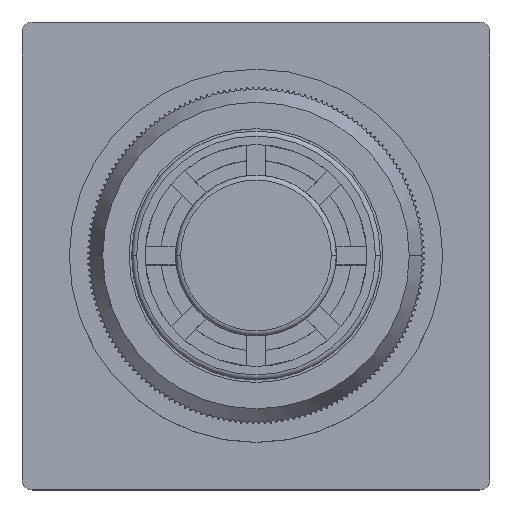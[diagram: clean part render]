
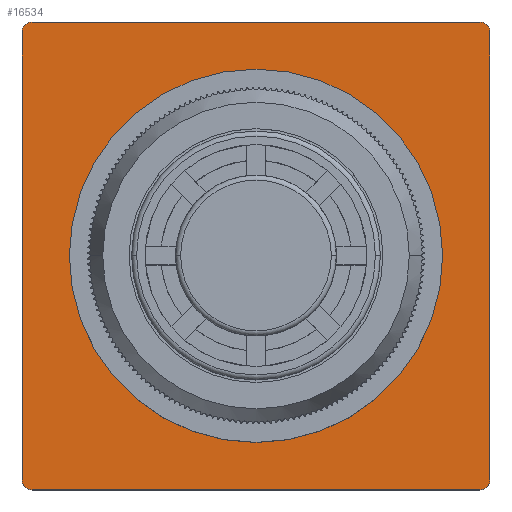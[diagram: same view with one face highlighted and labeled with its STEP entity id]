
A CAD part, top view. The second image highlights one B-rep face of the part: STEP entity #16534.
In plain terms, the highlighted planar face has unit normal (0, 0, 1).
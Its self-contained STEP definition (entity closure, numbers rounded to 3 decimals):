
#7 = EDGE_CURVE ( 'NONE', #871, #877, #8851, .T. ) ;
#299 = EDGE_CURVE ( 'NONE', #31943, #31942, #9727, .T. ) ;
#871 = VERTEX_POINT ( 'NONE', #10700 ) ;
#877 = VERTEX_POINT ( 'NONE', #10706 ) ;
#2150 = EDGE_LOOP ( 'NONE', ( #5715, #5716, #5712, #5717, #5718, #5719, #5721, #5720 ) ) ;
#2151 = EDGE_LOOP ( 'NONE', ( #5724, #5723 ) ) ;
#3966 = EDGE_CURVE ( 'NONE', #31943, #31860, #4800, .T. ) ;
#3967 = EDGE_CURVE ( 'NONE', #31861, #31860, #12071, .T. ) ;
#3968 = EDGE_CURVE ( 'NONE', #31861, #877, #4801, .T. ) ;
#3969 = EDGE_CURVE ( 'NONE', #871, #31859, #4802, .T. ) ;
#3970 = EDGE_CURVE ( 'NONE', #31848, #31859, #12080, .T. ) ;
#3971 = EDGE_CURVE ( 'NONE', #31848, #31942, #4803, .T. ) ;
#4800 = CIRCLE ( 'NONE', #10528, 1. ) ;
#4801 = CIRCLE ( 'NONE', #10529, 1. ) ;
#4802 = CIRCLE ( 'NONE', #10527, 1. ) ;
#4803 = CIRCLE ( 'NONE', #10531, 1. ) ;
#5224 = CIRCLE ( 'NONE', #21818, 18.75 ) ;
#5442 = CIRCLE ( 'NONE', #25228, 18.75 ) ;
#5712 = ORIENTED_EDGE ( 'NONE', *, *, #3967, .F. ) ;
#5715 = ORIENTED_EDGE ( 'NONE', *, *, #299, .F. ) ;
#5716 = ORIENTED_EDGE ( 'NONE', *, *, #3966, .T. ) ;
#5717 = ORIENTED_EDGE ( 'NONE', *, *, #3968, .T. ) ;
#5718 = ORIENTED_EDGE ( 'NONE', *, *, #7, .F. ) ;
#5719 = ORIENTED_EDGE ( 'NONE', *, *, #3969, .T. ) ;
#5720 = ORIENTED_EDGE ( 'NONE', *, *, #3971, .T. ) ;
#5721 = ORIENTED_EDGE ( 'NONE', *, *, #3970, .F. ) ;
#5723 = ORIENTED_EDGE ( 'NONE', *, *, #30146, .F. ) ;
#5724 = ORIENTED_EDGE ( 'NONE', *, *, #21044, .F. ) ;
#6625 = VERTEX_POINT ( 'NONE', #15023 ) ;
#6886 = VERTEX_POINT ( 'NONE', #15284 ) ;
#8851 = LINE ( 'NONE', #8852, #30752 ) ;
#8852 = CARTESIAN_POINT ( 'NONE',  ( 23.5, -23.5, 0. ) ) ;
#8853 = DIRECTION ( 'NONE',  ( 0., -1., 0. ) ) ;
#9727 = LINE ( 'NONE', #9728, #10422 ) ;
#9728 = CARTESIAN_POINT ( 'NONE',  ( -23.5, -23.5, 0. ) ) ;
#9729 = DIRECTION ( 'NONE',  ( 0., 1., 0. ) ) ;
#10422 = VECTOR ( 'NONE', #9729, 1000. ) ;
#10527 = AXIS2_PLACEMENT_3D ( 'NONE', #12076, #12077, #12078 ) ;
#10528 = AXIS2_PLACEMENT_3D ( 'NONE', #12067, #12068, #12069 ) ;
#10529 = AXIS2_PLACEMENT_3D ( 'NONE', #12070, #12074, #12075 ) ;
#10530 = VECTOR ( 'NONE', #12073, 1000. ) ;
#10531 = AXIS2_PLACEMENT_3D ( 'NONE', #12079, #12083, #12084 ) ;
#10532 = VECTOR ( 'NONE', #12082, 1000. ) ;
#10700 = CARTESIAN_POINT ( 'NONE',  ( 23.5, 22.5, 0. ) ) ;
#10706 = CARTESIAN_POINT ( 'NONE',  ( 23.5, -22.5, 0. ) ) ;
#12067 = CARTESIAN_POINT ( 'NONE',  ( -22.5, -22.5, 0. ) ) ;
#12068 = DIRECTION ( 'NONE',  ( 0., 0., 1. ) ) ;
#12069 = DIRECTION ( 'NONE',  ( 1., 0., 0. ) ) ;
#12070 = CARTESIAN_POINT ( 'NONE',  ( 22.5, -22.5, 0. ) ) ;
#12071 = LINE ( 'NONE', #12072, #10530 ) ;
#12072 = CARTESIAN_POINT ( 'NONE',  ( 23.5, -23.5, 0. ) ) ;
#12073 = DIRECTION ( 'NONE',  ( -1., 0., 0. ) ) ;
#12074 = DIRECTION ( 'NONE',  ( 0., 0., 1. ) ) ;
#12075 = DIRECTION ( 'NONE',  ( 1., 0., 0. ) ) ;
#12076 = CARTESIAN_POINT ( 'NONE',  ( 22.5, 22.5, 0. ) ) ;
#12077 = DIRECTION ( 'NONE',  ( 0., 0., 1. ) ) ;
#12078 = DIRECTION ( 'NONE',  ( 1., 0., 0. ) ) ;
#12079 = CARTESIAN_POINT ( 'NONE',  ( -22.5, 22.5, 0. ) ) ;
#12080 = LINE ( 'NONE', #12081, #10532 ) ;
#12081 = CARTESIAN_POINT ( 'NONE',  ( 23.5, 23.5, 0. ) ) ;
#12082 = DIRECTION ( 'NONE',  ( 1., 0., 0. ) ) ;
#12083 = DIRECTION ( 'NONE',  ( 0., 0., 1. ) ) ;
#12084 = DIRECTION ( 'NONE',  ( 1., 0., 0. ) ) ;
#15023 = CARTESIAN_POINT ( 'NONE',  ( -18.75, 0., 0. ) ) ;
#15284 = CARTESIAN_POINT ( 'NONE',  ( 18.75, 0., 0. ) ) ;
#16122 = FACE_OUTER_BOUND ( 'NONE', #2150, .T. ) ;
#16125 = FACE_BOUND ( 'NONE', #2151, .T. ) ;
#16128 = AXIS2_PLACEMENT_3D ( 'NONE', #17260, #17261, #17262 ) ;
#16534 = ADVANCED_FACE ( 'NONE', ( #16122, #16125 ), #17259, .T. ) ;
#17259 = PLANE ( 'NONE',  #16128 ) ;
#17260 = CARTESIAN_POINT ( 'NONE',  ( 0., 0., 0. ) ) ;
#17261 = DIRECTION ( 'NONE',  ( 0., 0., 1. ) ) ;
#17262 = DIRECTION ( 'NONE',  ( 1., 0., 0. ) ) ;
#20741 = CARTESIAN_POINT ( 'NONE',  ( 0., 0., 0. ) ) ;
#20742 = DIRECTION ( 'NONE',  ( 0., 0., 1. ) ) ;
#20743 = DIRECTION ( 'NONE',  ( 1., 0., 0. ) ) ;
#21044 = EDGE_CURVE ( 'NONE', #6625, #6886, #5224, .T. ) ;
#21818 = AXIS2_PLACEMENT_3D ( 'NONE', #20741, #20742, #20743 ) ;
#24353 = CARTESIAN_POINT ( 'NONE',  ( 0., 0., 0. ) ) ;
#24360 = DIRECTION ( 'NONE',  ( 0., 0., 1. ) ) ;
#24361 = DIRECTION ( 'NONE',  ( 1., 0., 0. ) ) ;
#25228 = AXIS2_PLACEMENT_3D ( 'NONE', #24353, #24360, #24361 ) ;
#29216 = CARTESIAN_POINT ( 'NONE',  ( -22.5, 23.5, 0. ) ) ;
#29227 = CARTESIAN_POINT ( 'NONE',  ( 22.5, 23.5, 0. ) ) ;
#29228 = CARTESIAN_POINT ( 'NONE',  ( -22.5, -23.5, 0. ) ) ;
#29229 = CARTESIAN_POINT ( 'NONE',  ( 22.5, -23.5, 0. ) ) ;
#29310 = CARTESIAN_POINT ( 'NONE',  ( -23.5, 22.5, 0. ) ) ;
#29311 = CARTESIAN_POINT ( 'NONE',  ( -23.5, -22.5, 0. ) ) ;
#30146 = EDGE_CURVE ( 'NONE', #6886, #6625, #5442, .T. ) ;
#30752 = VECTOR ( 'NONE', #8853, 1000. ) ;
#31848 = VERTEX_POINT ( 'NONE', #29216 ) ;
#31859 = VERTEX_POINT ( 'NONE', #29227 ) ;
#31860 = VERTEX_POINT ( 'NONE', #29228 ) ;
#31861 = VERTEX_POINT ( 'NONE', #29229 ) ;
#31942 = VERTEX_POINT ( 'NONE', #29310 ) ;
#31943 = VERTEX_POINT ( 'NONE', #29311 ) ;
